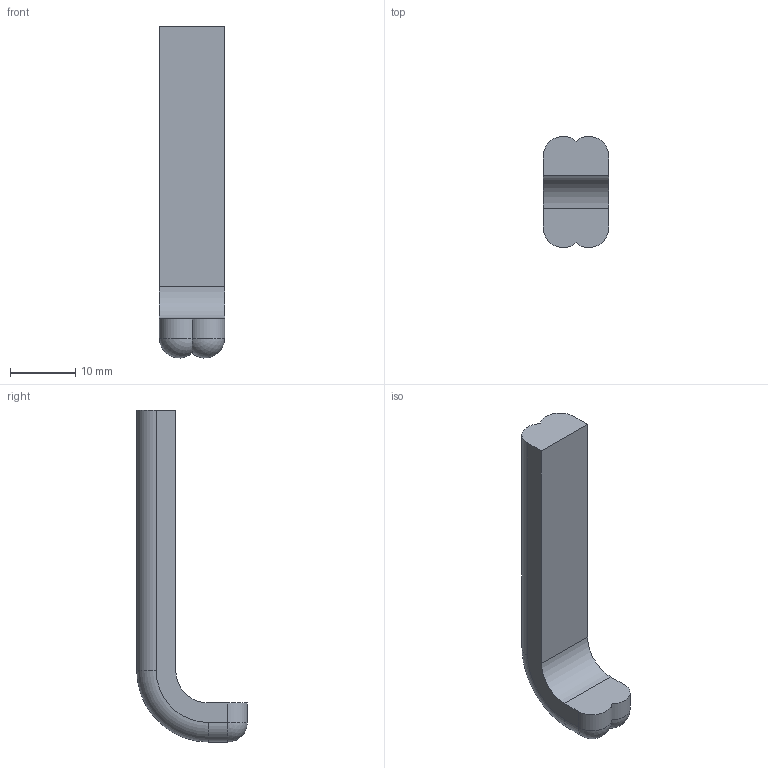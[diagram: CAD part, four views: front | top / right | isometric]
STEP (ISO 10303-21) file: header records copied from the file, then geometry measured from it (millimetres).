
FILE_DESCRIPTION(/* description */ ('STEP AP242 Edition 2','CAx-IF Rec.Pracs.---Representation and Presentation of Product Manufacturing Information (PMI)---4.0---2014-10-13','CAx-IF Rec.Pracs.---3D Tessellated Geometry---0.4---2014-09-14','2;1','CAx-IF Rec.Pracs.---User Defined Attributes---1.5---2016-08-15'),/* implementation_level */ '2;1');
FILE_NAME(/* name */ 'Assem2h - ZIPPY Flightmax 2100mAh 3S1P 30C LiFePo4 Pack v5.step[2]',/* time_stamp */ '2025-12-01T14:50:39Z',/* author */ (''),/* organization */ (''),/* preprocessor_version */ 'ST-DEVELOPER v20',/* originating_system */ 'ONSHAPE BY PTC INC, 1.207',/* authorisation */ ' ');
FILE_SCHEMA (('AP242_MANAGED_MODEL_BASED_3D_ENGINEERING_MIM_LF { 1 0 10303 442 3 1 4 }'));
Length unit declared in the file: metre
Products named in the file (1): ZIPPY Flightmax 2100mAh 3S1P 30C LiFePo4 Pack v5.step[2]
Bounding box: 10 x 16.98 x 50.99 mm (x, y, z)
Volume: 3175.5 mm3; surface area: 1810.8 mm2
Topology: 1 solids, 1 shells, 16 faces, 36 edges, 22 vertices
Faces by surface type: cylinder 7, plane 5, sphere 2, torus 2
Entity records: 515 total; most frequent: DIRECTION 88, CARTESIAN_POINT 75, ORIENTED_EDGE 72, EDGE_CURVE 36, AXIS2_PLACEMENT_3D 35, VERTEX_POINT 22, LINE 18, VECTOR 18
